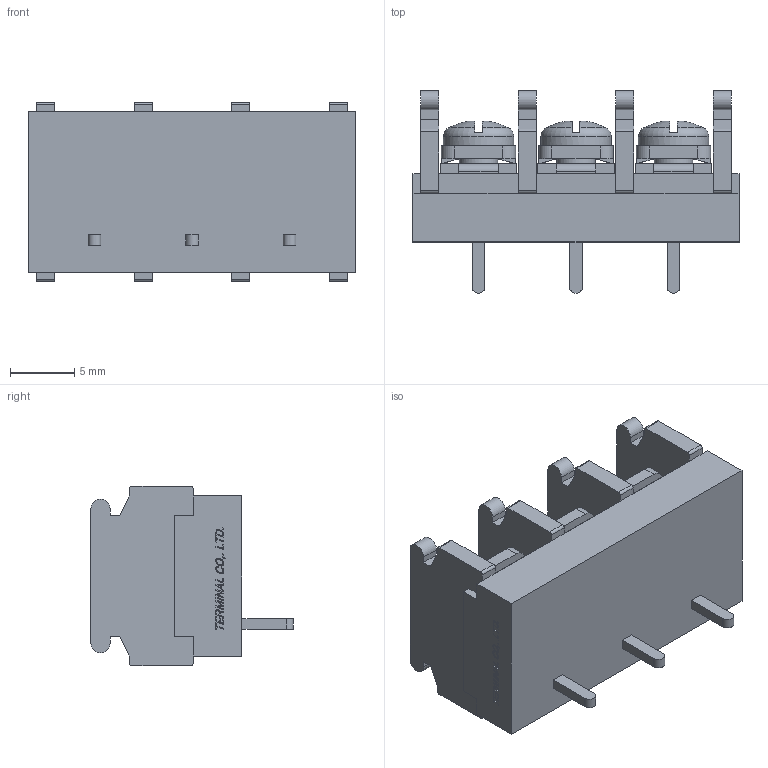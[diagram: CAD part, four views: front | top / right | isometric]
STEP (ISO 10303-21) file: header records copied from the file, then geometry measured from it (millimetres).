
FILE_DESCRIPTION(/* description */ ('Alibre Inc.'),/* implementation_level */ '2;1');
FILE_NAME(/* name */ 'export0',/* time_stamp */ '2015-10-23T19:24:28+09:00',/* author */ (''),/* organization */ (''),/* preprocessor_version */ 'ST-DEVELOPER v14',/* originating_system */ 'Alibre',/* authorisation */ '');
FILE_SCHEMA (('CONFIG_CONTROL_DESIGN'));
Length unit declared in the file: centimetre
Products named in the file (1): ID_1
Bounding box: 25.48 x 15.8 x 14 mm (x, y, z)
Volume: 2435 mm3; surface area: 2432.2 mm2
Topology: 1 solids, 1 shells, 744 faces, 2027 edges, 1337 vertices
Faces by surface type: plane 562, bspline 104, cylinder 54, cone 12, torus 6, sphere 6
Full cylindrical faces by diameter (mm): 3 x3, 5.5 x3
Entity records: 22558 total; most frequent: CARTESIAN_POINT 5220, ORIENTED_EDGE 4006, DIRECTION 2591, EDGE_CURVE 2003, VECTOR 1504, LINE 1504, VERTEX_POINT 1325, EDGE_LOOP 808
